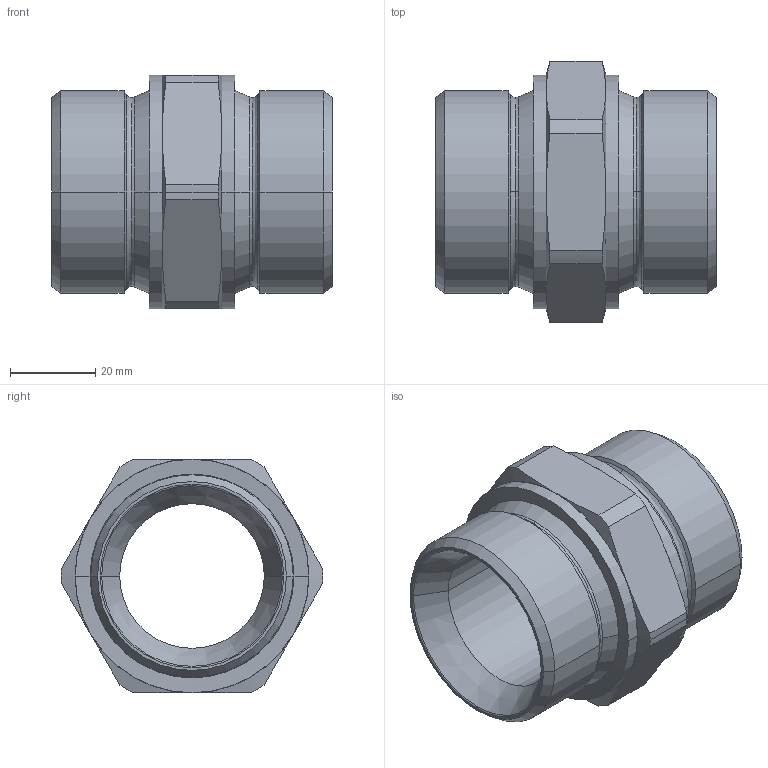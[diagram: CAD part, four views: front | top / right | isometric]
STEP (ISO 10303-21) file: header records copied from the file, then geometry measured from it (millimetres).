
FILE_DESCRIPTION((''),'2;1');
FILE_NAME('300529.stp','2006-09-11T08:14:55',(''),(''),'AutoCAD STEP 2000i','AutoCAD 2000i',', , ');
FILE_SCHEMA(('CONFIG_CONTROL_DESIGN'));
Length unit declared in the file: millimetre
Products named in the file (2): 300529.0; CHIAVE SMUSSATA#0
Assembly tree (1 placements, depth 2):
  300529.0
    CHIAVE SMUSSATA#0
Bounding box: 66 x 61.5 x 55 mm (x, y, z)
Volume: 66565.3 mm3; surface area: 20228.4 mm2
Topology: 1 solids, 1 shells, 72 faces, 170 edges, 102 vertices
Faces by surface type: cone 32, cylinder 18, plane 10, bspline 8, torus 4
Entity records: 2493 total; most frequent: CARTESIAN_POINT 746, DIRECTION 380, ORIENTED_EDGE 340, EDGE_CURVE 170, AXIS2_PLACEMENT_3D 168, VERTEX_POINT 102, CIRCLE 102, EDGE_LOOP 76
